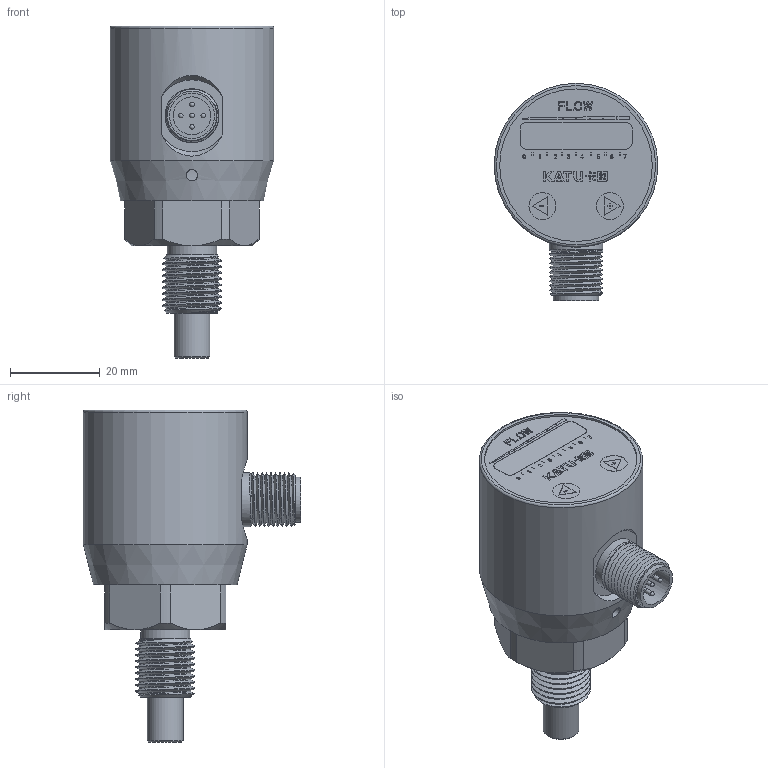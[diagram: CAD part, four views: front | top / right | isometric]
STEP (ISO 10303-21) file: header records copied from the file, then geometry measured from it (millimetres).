
FILE_DESCRIPTION( (''), '2;1');
FILE_NAME( 'QSKD_G1-4_L25.step', '2024-04-26T10:26:52+08:00', (''), (''), '', '', '');
FILE_SCHEMA (('AUTOMOTIVE_DESIGN { 1 0 10303 214 3 1 1 1 }'));
Length unit declared in the file: millimetre
Products named in the file (1): QSKD G1-4_L25
Bounding box: 36.5 x 48.4 x 74 mm (x, y, z)
Volume: 37735.2 mm3; surface area: 16749.5 mm2
Topology: 4 solids, 4 shells, 688 faces, 1835 edges, 1217 vertices
Faces by surface type: plane 583, cylinder 62, cone 17, bspline 14, sphere 11, torus 1
Full cylindrical faces by diameter (mm): 1 x10, 2.5 x1, 6 x2, 7.2 x1, 8 x1, 8.4 x1, 9.7 x1, 9.8 x1, 10.1 x1, 11 x2, 11.6 x2, 12 x1, 18 x1, 23 x3, 26.1 x5, 34 x1, 36.5 x1
Entity records: 24247 total; most frequent: CARTESIAN_POINT 7656, ORIENTED_EDGE 3442, DIRECTION 3137, EDGE_CURVE 1721, LINE 1531, VECTOR 1531, VERTEX_POINT 1170, EDGE_LOOP 815
